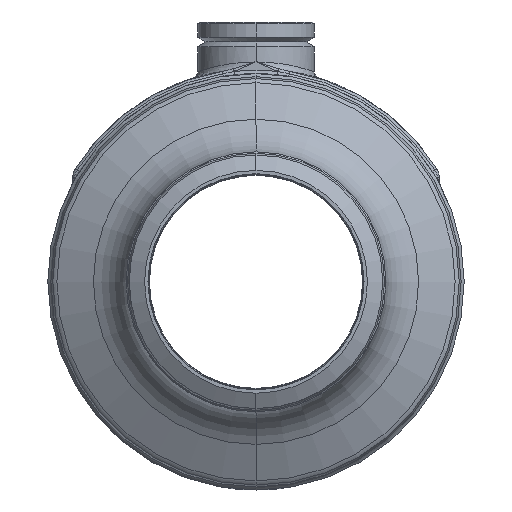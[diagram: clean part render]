
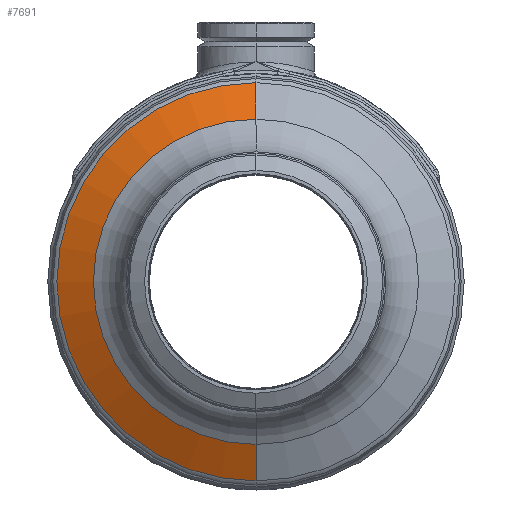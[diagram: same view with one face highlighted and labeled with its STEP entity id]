
A CAD part, left-side view. The second image highlights one B-rep face of the part: STEP entity #7691.
In plain terms, the highlighted conical face has half-angle 62.949 degrees and reference radius 54.294 mm.
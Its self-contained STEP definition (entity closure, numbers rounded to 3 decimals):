
#1078=CARTESIAN_POINT('',(-51.392,0.,0.));
#1079=DIRECTION('',(1.,0.,0.));
#1080=DIRECTION('',(0.,0.,-1.));
#1081=AXIS2_PLACEMENT_3D('',#1078,#1079,#1080);
#1083=CARTESIAN_POINT('',(-56.989,0.,0.));
#1084=DIRECTION('',(1.,0.,0.));
#1085=DIRECTION('',(0.,0.,-1.));
#1086=AXIS2_PLACEMENT_3D('',#1083,#1084,#1085);
#1159=DIRECTION('',(-0.455,0.,0.891));
#1160=VECTOR('',#1159,12.306);
#1161=CARTESIAN_POINT('',(-51.392,0.,
-59.774));
#1162=LINE('',#1161,#1160);
#1168=DIRECTION('',(-0.455,0.,-0.891));
#1169=VECTOR('',#1168,12.306);
#1170=CARTESIAN_POINT('',(-51.392,0.,
59.774));
#1171=LINE('',#1170,#1169);
#5510=CARTESIAN_POINT('',(-51.392,0.,-59.774));
#5511=CARTESIAN_POINT('',(-51.392,0.,
59.774));
#5512=VERTEX_POINT('',#5510);
#5513=VERTEX_POINT('',#5511);
#5518=CARTESIAN_POINT('',(-56.989,0.,
48.814));
#5519=VERTEX_POINT('',#5518);
#5520=CARTESIAN_POINT('',(-56.989,0.,
-48.814));
#5521=VERTEX_POINT('',#5520);
#7677=CARTESIAN_POINT('',(-54.19,0.,0.));
#7678=DIRECTION('',(1.,0.,0.));
#7679=DIRECTION('',(0.,0.,1.));
#7680=AXIS2_PLACEMENT_3D('',#7677,#7678,#7679);
#7681=CONICAL_SURFACE('',#7680,54.294,62.949);
#7683=ORIENTED_EDGE('',*,*,#7682,.T.);
#7685=ORIENTED_EDGE('',*,*,#7684,.T.);
#7686=ORIENTED_EDGE('',*,*,#7671,.F.);
#7688=ORIENTED_EDGE('',*,*,#7687,.F.);
#7689=EDGE_LOOP('',(#7683,#7685,#7686,#7688));
#7690=FACE_OUTER_BOUND('',#7689,.F.);
#7691=ADVANCED_FACE('',(#7690),#7681,.T.);
#1082=CIRCLE('',#1081,59.774);
#1087=CIRCLE('',#1086,48.814);
#7671=EDGE_CURVE('',#5521,#5519,#1087,.T.);
#7682=EDGE_CURVE('',#5512,#5513,#1082,.T.);
#7684=EDGE_CURVE('',#5513,#5519,#1171,.T.);
#7687=EDGE_CURVE('',#5512,#5521,#1162,.T.);
